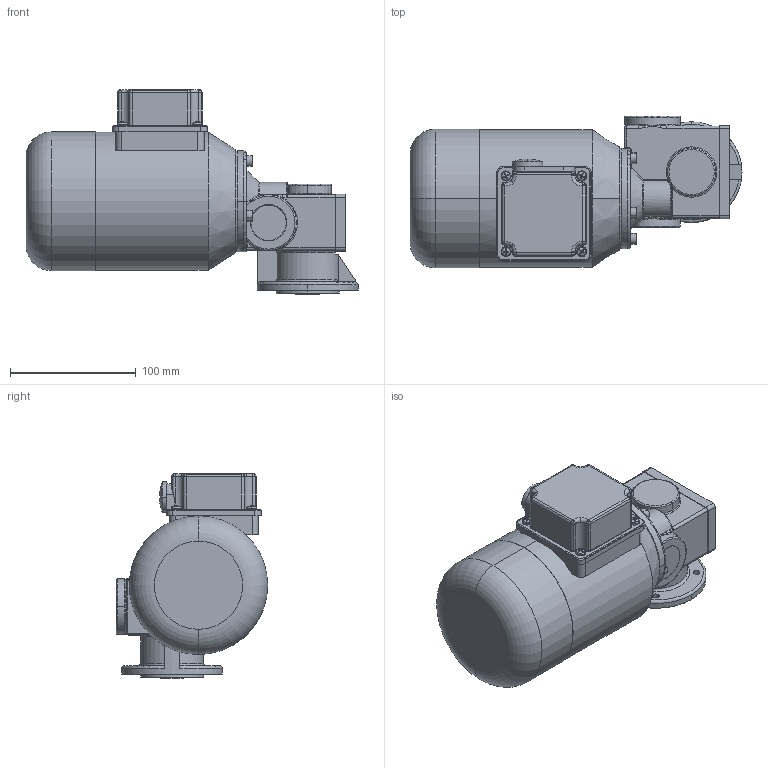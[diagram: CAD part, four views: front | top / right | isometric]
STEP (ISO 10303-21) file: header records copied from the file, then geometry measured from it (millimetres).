
FILE_DESCRIPTION (( 'STEP AP214' ), '1' );
FILE_NAME ('SN6FH_120W_2800Upm_Drehstrom-Motor_D.STEP', '2021-08-10T09:33:02', ( '' ), ( '' ), 'SwSTEP 2.0', 'SolidWorks 2019', '' );
FILE_SCHEMA (( 'AUTOMOTIVE_DESIGN' ));
Length unit declared in the file: millimetre
Products named in the file (10): 06FH-G-001_3D-Export; K_28x4.0; 06F-D-003_3D-Export; socket head cap screw_iso_ISO 4762 M5 x 16 - 16C; 06-M-066 I 120W_2800Upm; socket head cap screw_iso_ISO 4762 M3 x 10 - 10C; NBR_WDR_20x37x7; SN6FH_120W_2800Upm_Drehstrom-Motor_D; SN6FH_3D-Export; 06FH-W-001_3D-Export
Assembly tree (15 placements, depth 3):
  SN6FH_120W_2800Upm_Drehstrom-Motor_D
    SN6FH_3D-Export
      06FH-G-001_3D-Export
      06F-D-003_3D-Export
      06FH-W-001_3D-Export
      K_28x4.0  x2
      NBR_WDR_20x37x7
      socket head cap screw_iso_ISO 4762 M3 x 10 - 10C  x4
      socket head cap screw_iso_ISO 4762 M5 x 16 - 16C  x3
    06-M-066 I 120W_2800Upm
Bounding box: 263.5 x 120.3 x 162.7 mm (x, y, z)
Volume: 1963670.5 mm3; surface area: 180698.2 mm2
Topology: 15 solids, 15 shells, 925 faces, 2262 edges, 1361 vertices
Faces by surface type: cylinder 279, plane 241, torus 172, cone 151, bspline 54, sphere 28
Entity records: 27976 total; most frequent: CARTESIAN_POINT 8861, DIRECTION 4160, ORIENTED_EDGE 3824, EDGE_CURVE 1912, AXIS2_PLACEMENT_3D 1777, VERTEX_POINT 1188, CIRCLE 1029, EDGE_LOOP 850
